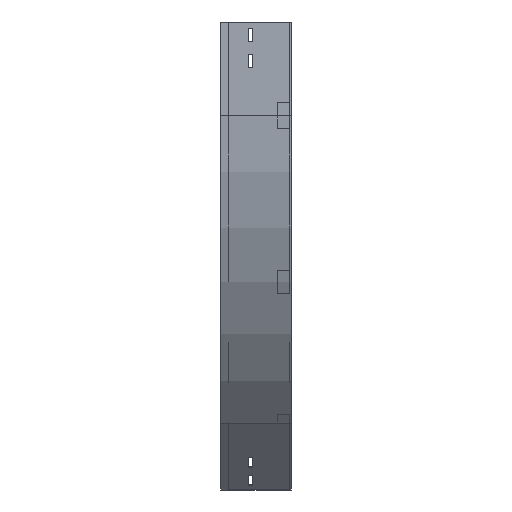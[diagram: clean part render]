
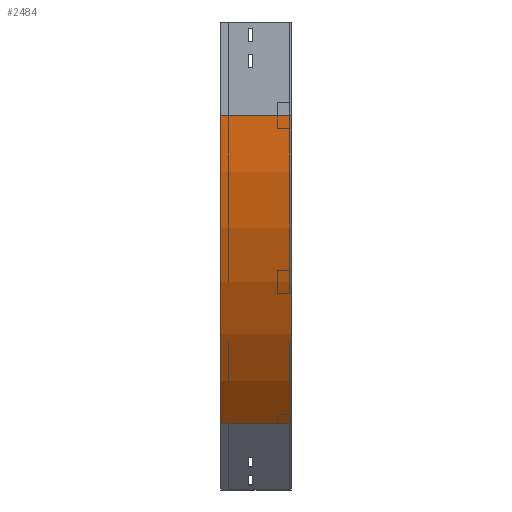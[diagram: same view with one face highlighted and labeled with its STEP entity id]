
A CAD part, left-side view. The second image highlights one B-rep face of the part: STEP entity #2484.
In plain terms, the highlighted cylindrical face has radius 700 mm (diameter 1400 mm), a partial arc.
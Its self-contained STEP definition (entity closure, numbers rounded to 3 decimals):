
#8 = CARTESIAN_POINT ( 'NONE',  ( 700., 0., -150. ) ) ;
#171 = VECTOR ( 'NONE', #3719, 1000. ) ;
#296 = VERTEX_POINT ( 'NONE', #1994 ) ;
#421 = ORIENTED_EDGE ( 'NONE', *, *, #2512, .F. ) ;
#474 = AXIS2_PLACEMENT_3D ( 'NONE', #8, #587, #1716 ) ;
#536 = DIRECTION ( 'NONE',  ( -1., 0., 0. ) ) ;
#540 = CIRCLE ( 'NONE', #474, 700. ) ;
#587 = DIRECTION ( 'NONE',  ( 0., -1., 0. ) ) ;
#599 = AXIS2_PLACEMENT_3D ( 'NONE', #1605, #676, #2785 ) ;
#676 = DIRECTION ( 'NONE',  ( 0., -1., 0. ) ) ;
#826 = CARTESIAN_POINT ( 'NONE',  ( 700., 112.5, -150. ) ) ;
#994 = EDGE_CURVE ( 'NONE', #296, #1586, #1147, .T. ) ;
#1031 = EDGE_LOOP ( 'NONE', ( #421, #3845, #3615, #3575 ) ) ;
#1147 = CIRCLE ( 'NONE', #3319, 700. ) ;
#1183 = VERTEX_POINT ( 'NONE', #2509 ) ;
#1343 = CARTESIAN_POINT ( 'NONE',  ( 0., 0., -150. ) ) ;
#1586 = VERTEX_POINT ( 'NONE', #1950 ) ;
#1605 = CARTESIAN_POINT ( 'NONE',  ( 700., 0., -150. ) ) ;
#1634 = LINE ( 'NONE', #1343, #3245 ) ;
#1635 = CARTESIAN_POINT ( 'NONE',  ( 205.025, 0., -644.975 ) ) ;
#1682 = EDGE_CURVE ( 'NONE', #296, #1183, #1634, .T. ) ;
#1716 = DIRECTION ( 'NONE',  ( -1., 0., 0. ) ) ;
#1949 = VERTEX_POINT ( 'NONE', #3063 ) ;
#1950 = CARTESIAN_POINT ( 'NONE',  ( 205.025, 112.5, -644.975 ) ) ;
#1994 = CARTESIAN_POINT ( 'NONE',  ( 0., 112.5, -150. ) ) ;
#2005 = DIRECTION ( 'NONE',  ( 0., -1., 0. ) ) ;
#2139 = FACE_OUTER_BOUND ( 'NONE', #1031, .T. ) ;
#2484 = ADVANCED_FACE ( 'NONE', ( #2139 ), #3343, .T. ) ;
#2509 = CARTESIAN_POINT ( 'NONE',  ( 0., 0., -150. ) ) ;
#2512 = EDGE_CURVE ( 'NONE', #1183, #1949, #540, .T. ) ;
#2521 = DIRECTION ( 'NONE',  ( 0., -1., 0. ) ) ;
#2785 = DIRECTION ( 'NONE',  ( 0., 0., -1. ) ) ;
#2840 = EDGE_CURVE ( 'NONE', #1586, #1949, #3761, .T. ) ;
#3063 = CARTESIAN_POINT ( 'NONE',  ( 205.025, 0., -644.975 ) ) ;
#3245 = VECTOR ( 'NONE', #2521, 1000. ) ;
#3319 = AXIS2_PLACEMENT_3D ( 'NONE', #826, #2005, #536 ) ;
#3343 = CYLINDRICAL_SURFACE ( 'NONE', #599, 700. ) ;
#3575 = ORIENTED_EDGE ( 'NONE', *, *, #2840, .T. ) ;
#3615 = ORIENTED_EDGE ( 'NONE', *, *, #994, .T. ) ;
#3719 = DIRECTION ( 'NONE',  ( 0., -1., 0. ) ) ;
#3761 = LINE ( 'NONE', #1635, #171 ) ;
#3845 = ORIENTED_EDGE ( 'NONE', *, *, #1682, .F. ) ;
